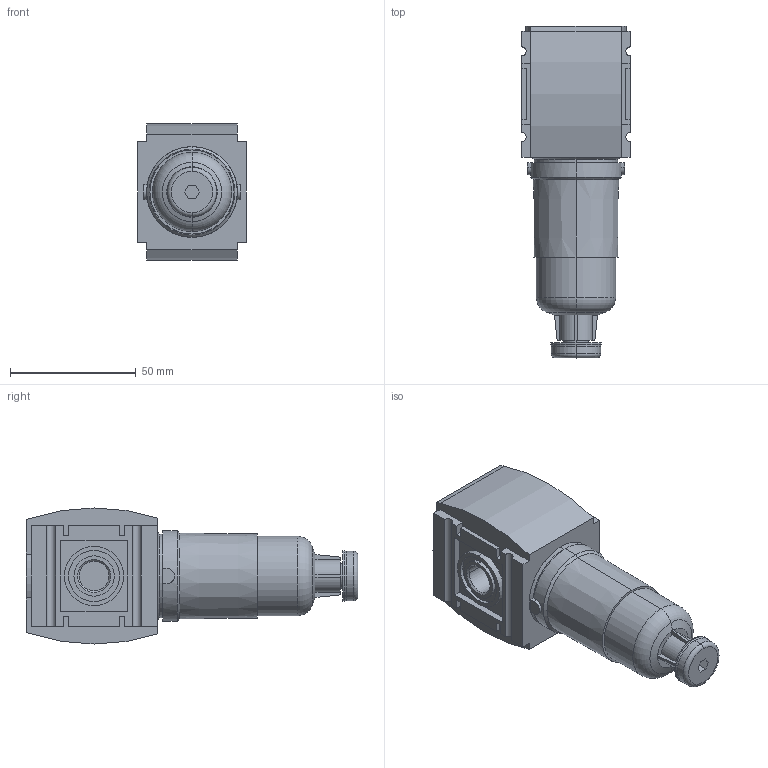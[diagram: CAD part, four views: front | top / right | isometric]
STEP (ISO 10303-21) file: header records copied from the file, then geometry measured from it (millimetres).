
FILE_DESCRIPTION((''),'2;1');
FILE_NAME('R412014685_ASM','2019-03-18T',('vol1hc'),(''),'CREO PARAMETRIC BY PTC INC, 2016260','CREO PARAMETRIC BY PTC INC, 2016260','');
FILE_SCHEMA(('CONFIG_CONTROL_DESIGN'));
Length unit declared in the file: millimetre
Products named in the file (4): R412014685; AS1_RES_FILTER_SEMI; AS1_DRAIN_KNOB_PC; R412014685_ASM
Assembly tree (3 placements, depth 2):
  R412014685_ASM
    R412014685
    AS1_RES_FILTER_SEMI
    AS1_DRAIN_KNOB_PC
Bounding box: 43 x 131.7 x 54 mm (x, y, z)
Volume: 159580.5 mm3; surface area: 29558 mm2
Topology: 3 solids, 3 shells, 192 faces, 480 edges, 310 vertices
Faces by surface type: plane 116, cylinder 52, cone 18, torus 6
Entity records: 5897 total; most frequent: CARTESIAN_POINT 1069, DIRECTION 1012, ORIENTED_EDGE 960, EDGE_CURVE 480, VECTOR 342, LINE 342, AXIS2_PLACEMENT_3D 335, VERTEX_POINT 310
